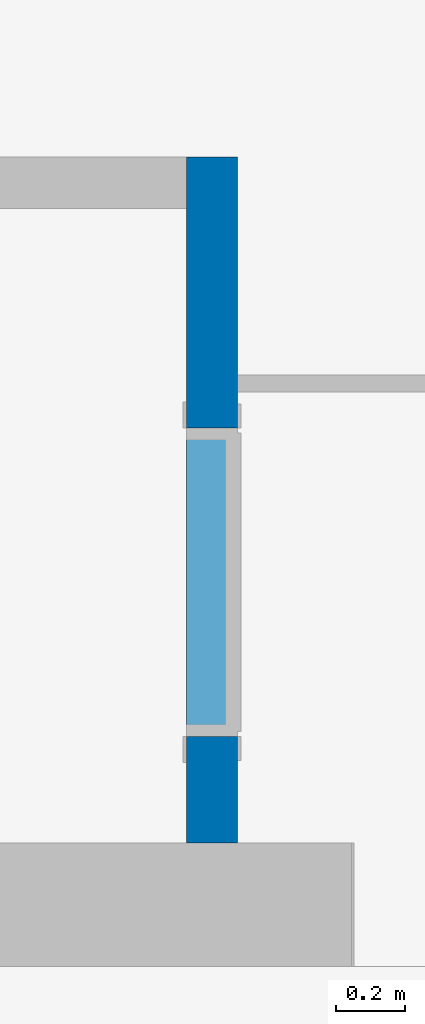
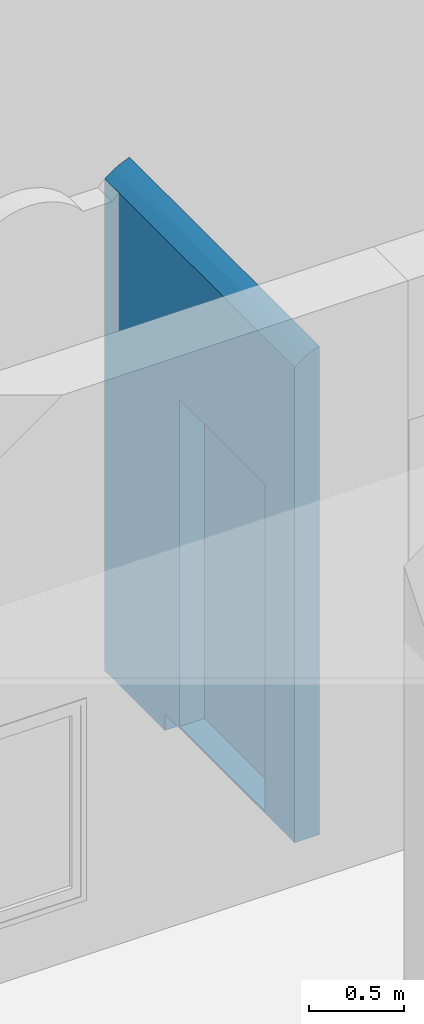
# One storey, part 135 of 153: 1 wall, 1 opening.
"""IFC4 building model written with IfcOpenShell, lengths in metres."""

from ifc_helpers import new_model, entity, si_unit, converted_unit, derived_unit, direction, frame, origin, place, context, subcontext, project, spatial, indexed_curve, outline, extrude, polygons, material, type_object, element, save


model = new_model("IFC4")

# Units and contexts
model_context = context("Model", 3, precision=1e-05, world=origin(), true_north=direction((6.123031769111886e-17, 1.0)))
body_context = subcontext(model_context, "Body", "Model", "MODEL_VIEW")
ifc_project = project(units=[si_unit("LENGTHUNIT", "METRE"), si_unit("AREAUNIT", "SQUARE_METRE"), si_unit("VOLUMEUNIT", "CUBIC_METRE"), converted_unit("PLANEANGLEUNIT", "DEGREE", entity("IfcRatioMeasure", 0.017453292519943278), si_unit("PLANEANGLEUNIT", "RADIAN"), dimensions=[0, 0, 0, 0, 0, 0, 0]), si_unit("MASSUNIT", "GRAM", prefix="KILO"), derived_unit("MASSDENSITYUNIT", [(si_unit("MASSUNIT", "GRAM", prefix="KILO"), 1), (si_unit("LENGTHUNIT", "METRE"), -3)]), derived_unit("MOMENTOFINERTIAUNIT", [(si_unit("LENGTHUNIT", "METRE"), 4)]), si_unit("TIMEUNIT", "SECOND"), si_unit("FREQUENCYUNIT", "HERTZ"), si_unit("THERMODYNAMICTEMPERATUREUNIT", "DEGREE_CELSIUS"), derived_unit("THERMALTRANSMITTANCEUNIT", [(si_unit("MASSUNIT", "GRAM", prefix="KILO"), 1), (si_unit("THERMODYNAMICTEMPERATUREUNIT", "KELVIN"), -1), (si_unit("TIMEUNIT", "SECOND"), -3)]), derived_unit("VOLUMETRICFLOWRATEUNIT", [(si_unit("LENGTHUNIT", "METRE"), 3), (si_unit("TIMEUNIT", "SECOND"), -1)]), derived_unit("MASSFLOWRATEUNIT", [(si_unit("MASSUNIT", "GRAM", prefix="KILO"), 1), (si_unit("TIMEUNIT", "SECOND"), -1)]), derived_unit("ROTATIONALFREQUENCYUNIT", [(si_unit("TIMEUNIT", "SECOND"), -1)]), si_unit("ELECTRICCURRENTUNIT", "AMPERE"), si_unit("ELECTRICVOLTAGEUNIT", "VOLT"), si_unit("POWERUNIT", "WATT"), si_unit("FORCEUNIT", "NEWTON", prefix="KILO"), si_unit("ILLUMINANCEUNIT", "LUX"), si_unit("LUMINOUSFLUXUNIT", "LUMEN"), si_unit("LUMINOUSINTENSITYUNIT", "CANDELA"), derived_unit("USERDEFINED", [(si_unit("MASSUNIT", "GRAM", prefix="KILO"), -1), (si_unit("LENGTHUNIT", "METRE"), -2), (si_unit("TIMEUNIT", "SECOND"), 3), (si_unit("LUMINOUSFLUXUNIT", "LUMEN"), 1)]), derived_unit("SOUNDPOWERUNIT", [(si_unit("MASSUNIT", "GRAM", prefix="KILO"), 1), (si_unit("LENGTHUNIT", "METRE"), 2), (si_unit("TIMEUNIT", "SECOND"), -3)]), derived_unit("SOUNDPRESSUREUNIT", [(si_unit("MASSUNIT", "GRAM", prefix="KILO"), 1), (si_unit("LENGTHUNIT", "METRE"), -1), (si_unit("TIMEUNIT", "SECOND"), -2)]), derived_unit("LINEARVELOCITYUNIT", [(si_unit("LENGTHUNIT", "METRE"), 1), (si_unit("TIMEUNIT", "SECOND"), -1)]), si_unit("PRESSUREUNIT", "PASCAL"), derived_unit("USERDEFINED", [(si_unit("LENGTHUNIT", "METRE"), -2), (si_unit("MASSUNIT", "GRAM", prefix="KILO"), 1), (si_unit("TIMEUNIT", "SECOND"), -2)]), derived_unit("LINEARFORCEUNIT", [(si_unit("MASSUNIT", "GRAM", prefix="KILO"), 1), (si_unit("LENGTHUNIT", "METRE"), 1), (si_unit("TIMEUNIT", "SECOND"), -2), (si_unit("LENGTHUNIT", "METRE"), -1)]), derived_unit("PLANARFORCEUNIT", [(si_unit("MASSUNIT", "GRAM", prefix="KILO"), 1), (si_unit("LENGTHUNIT", "METRE"), 1), (si_unit("TIMEUNIT", "SECOND"), -2), (si_unit("LENGTHUNIT", "METRE"), -2)])], contexts=[model_context])

# Site, building, storey
site_placement = place(None, origin())
site = spatial("IfcSite", under=ifc_project, at=site_placement, Name="Superficie", CompositionType="ELEMENT")
building_placement = place(site_placement, origin())
building = spatial("IfcBuilding", under=site, at=building_placement, CompositionType="ELEMENT")
storey_placement = place(building_placement, frame((0.0, 0.0, 3.5999999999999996)))
storey = spatial("IfcBuildingStorey", under=building, at=storey_placement, Name="Nivel 1", CompositionType="ELEMENT", Elevation=3.5999999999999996)

# Wall, opening
ifc_material = material(Name="Muro por defecto", Category="Varios")
wall_type = type_object("IfcWallType", Name="Muro básico:Por defecto - 15 cm 2", PredefinedType="STANDARD")
wall_placement = place(storey_placement, frame((-2.4939980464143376, 12.730429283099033, 0.4000000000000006), z_axis=(0.0, 0.0, 1.0), x_axis=(0.0, -1.0, 0.0)))
wall = element("IfcWall", 1, at=wall_placement, inside=storey, type_object=wall_type, material=ifc_material, Name="Muro básico:Por defecto - 15 cm 2", ObjectType="Muro básico:Por defecto - 15 cm 2", PredefinedType="NOTDEFINED", context=body_context, shape_type="Tessellation", body=[
    polygons([(1.9995999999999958, -0.07499999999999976, 0.1062757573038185), (1.9995999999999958, -0.07499999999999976, 3.1619734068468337), (0.15000000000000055, -0.07499999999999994, 3.1619734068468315), (0.0, -0.07499999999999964, 3.16197340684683), (0.0, -0.07499999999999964, 0.0005266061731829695), (0.0, -0.07499999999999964, -5.414335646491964e-16), (0.6346000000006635, -0.07499999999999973, -5.414335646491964e-16), (0.6346000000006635, -0.07499999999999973, 0.1062757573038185), (0.7895999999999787, -0.07500000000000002, 0.11999999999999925), (0.7895999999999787, -0.07500000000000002, 2.2199999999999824), (1.6895999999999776, -0.0749999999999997, 2.2199999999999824), (1.6895999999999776, -0.0749999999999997, 0.11999999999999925), (1.9995999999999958, 0.07499999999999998, 3.2486083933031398), (1.9995999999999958, 0.07499999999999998, 0.1062757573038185), (0.6346000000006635, 0.07500000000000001, 0.1062757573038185), (0.6346000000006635, 0.07500000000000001, -5.414335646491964e-16), (0.0, 0.0750000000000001, -5.414335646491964e-16), (0.0, 0.0750000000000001, 3.248608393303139), (0.7895999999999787, 0.07499999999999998, 2.2199999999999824), (0.7895999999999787, 0.07499999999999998, 0.11999999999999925), (1.6895999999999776, 0.07500000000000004, 0.11999999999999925), (1.6895999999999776, 0.07500000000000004, 2.2199999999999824), (1.9995999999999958, 0.02123901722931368, 3.226594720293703), (1.9995999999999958, -0.029066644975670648, 3.197539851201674), (0.0, -0.02906664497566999, 3.197539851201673), (0.0, 0.02123901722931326, 3.226594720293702), (0.7242931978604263, 0.07500000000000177, 3.2486083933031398), (1.275306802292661, -0.07499999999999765, 3.1619734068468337), (1.2753068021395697, 0.07500000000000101, 3.2486083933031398), (0.7126534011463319, -0.07499999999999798, 3.1619734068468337), (0.9997999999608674, -0.004404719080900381, 3.212917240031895)], [[[6, 7, 8, 1, 2, 28, 30, 3, 4, 5], [10, 11, 12, 9]], [[14, 15, 16, 17, 18, 27, 29, 13, 14, 22, 19, 20, 21, 22]], [[24, 2, 1, 14, 13, 23]], [[7, 16, 15, 8]], [[9, 20, 19, 10]], [[26, 18, 17, 6, 5, 4, 25]], [[11, 22, 21, 12]], [[31, 26, 25]], [[28, 2, 24]], [[25, 4, 3, 30]], [[18, 26, 27]], [[23, 13, 29]], [[25, 30, 31]], [[31, 23, 29]], [[31, 28, 24]], [[23, 31, 24]], [[26, 31, 27]], [[30, 28, 31]], [[31, 29, 27]], [[1, 8, 15, 14]], [[16, 7, 6, 17]], [[10, 19, 22, 11]], [[9, 12, 21, 20]]], closed=True),
])
opening_placement = place(wall_placement, frame((0.7895999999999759, -0.07500000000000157, 0.11999999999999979)))
element("IfcOpeningElement", 2, at=opening_placement, cuts=wall, Name="Puerta de 1 hoja:90 x 210 cm:1", PredefinedType="OPENING", context=body_context, shape_type="SweptSolid", body=[
    extrude(outline(indexed_curve([(0.0, 5.146423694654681e-33), (2.099999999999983, 5.146423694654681e-33), (2.099999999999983, 0.8999999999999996), (0.0, 0.8999999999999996), (0.0, 5.146423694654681e-33)], self_intersect=False)), frame((0.0, 0.0, 0.0), z_axis=(0.0, 1.0, 0.0), x_axis=(0.0, 0.0, 1.0)), (0.0, 0.0, 1.0), 0.14999999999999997),
])

save(model, "model.ifc")
